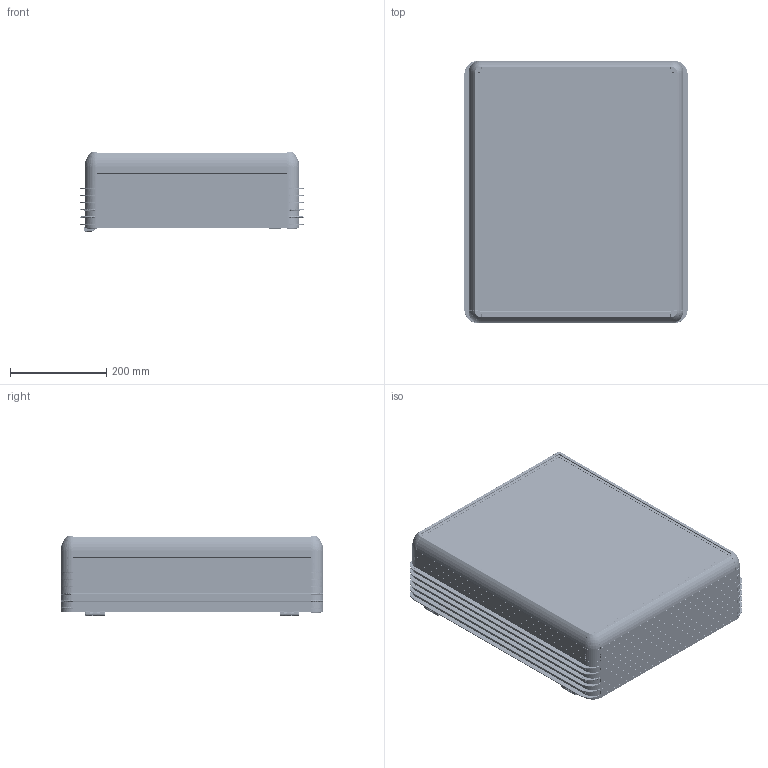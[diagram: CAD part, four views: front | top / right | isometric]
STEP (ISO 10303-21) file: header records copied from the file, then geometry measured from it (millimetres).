
FILE_DESCRIPTION (( 'STEP AP214' ), '1' );
FILE_NAME ('6091-0010.STEP', '2022-04-22T12:31:54', ( '' ), ( '' ), 'SwSTEP 2.0', 'SolidWorks 2022', '' );
FILE_SCHEMA (( 'AUTOMOTIVE_DESIGN' ));
Length unit declared in the file: millimetre
Products named in the file (12): 400X500; HPECO-060-001-495_395; HPECOX-090-002_495; ECO90X(SAÐ)_Soðutmalý; 6091-0010; 6000-0010; HPECOX-090-001_395; HPECO-060-001-395_495; x91 menteþeli 400X500; ARKA_KAPAK_400X500; ECO6000-0000; ECO90X(SOL)_Soðutmalý
Assembly tree (20 placements, depth 3):
  6091-0010
    6000-0010
      400X500
      HPECO-060-001-495_395  x2
      HPECO-060-001-395_495  x2
      ECO6000-0000  x4
    x91 menteþeli 400X500
      ARKA_KAPAK_400X500
      ECO90X(SAÐ)_Soðutmalý  x2
      ECO90X(SOL)_Soðutmalý  x2
      HPECOX-090-001_395  x2
      HPECOX-090-002_495  x2
Bounding box: 465.16 x 547 x 165.69 mm (x, y, z)
Volume: 4733287.8 mm3; surface area: 2258935.2 mm2
Topology: 46 solids, 108 shells, 10569 faces, 27504 edges, 16738 vertices
Faces by surface type: plane 3649, bspline 2912, cylinder 2756, cone 702, torus 448, sphere 102
Entity records: 273743 total; most frequent: CARTESIAN_POINT 82126, ORIENTED_EDGE 30542, DIRECTION 24611, EDGE_CURVE 15271, VERTEX_POINT 9373, AXIS2_PLACEMENT_3D 8973, VECTOR 6665, LINE 6665
